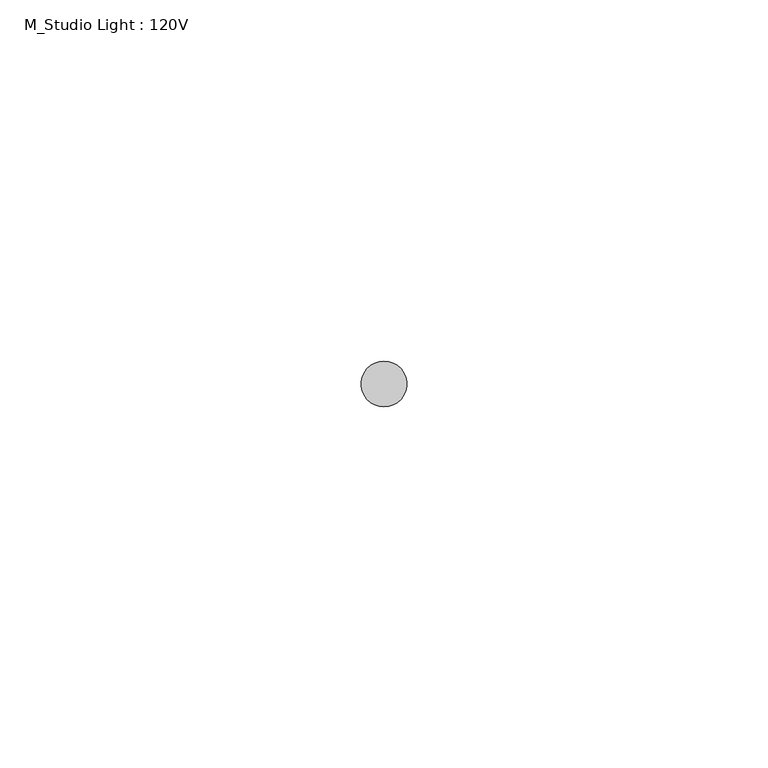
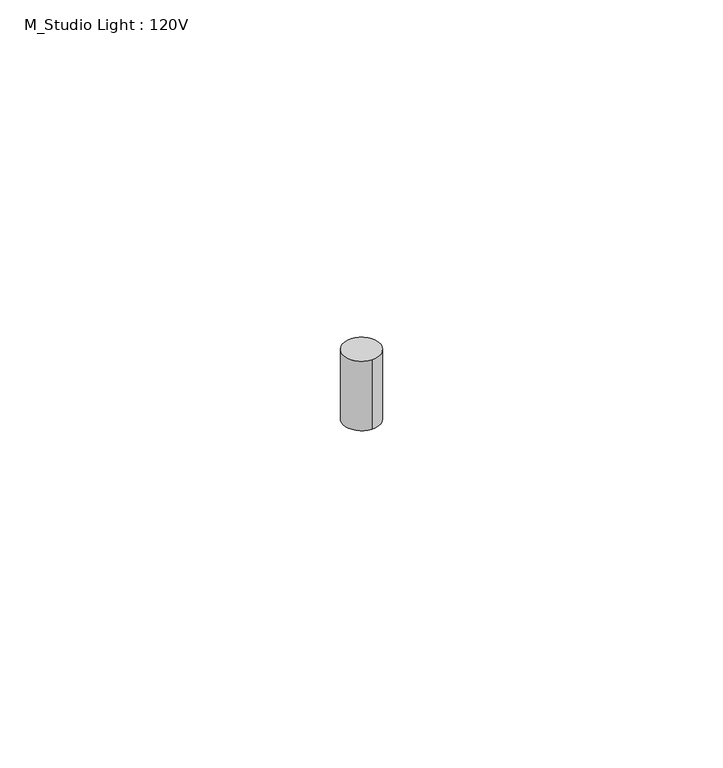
"""IFC4 building model written with IfcOpenShell, lengths in millimetres: light fixture geometry, M_Studio Light : 120V."""

from ifc_helpers import new_model, si_unit, point, frame, origin, origin_2d, place, context, project, spatial, circle_curve, trimmed, segment, composite_curve, outline, extrude, source, transform, mapped, element, save


def m_studio_light_120v_2dcb9a91(model_context):
    return source(origin(), model_context, "Body", "SweptSolid", [
        extrude(outline(composite_curve([segment(trimmed(circle_curve(origin_2d(), 3.175), [point((0.0, 3.175))], [point((0.0, -3.175))], False, "CARTESIAN"), True, "CONTINUOUS"), segment(trimmed(circle_curve(origin_2d(), 3.175), [point((0.0, -3.175))], [point((0.0, 3.175))], False, "CARTESIAN"), True, "CONTINUOUS")], self_intersect=False)), frame((0.0, 0.0, 2400.0), z_axis=(0.0, 0.0, 1.0), x_axis=(1.0, 0.0, 0.0)), (0.0, 0.0, 1.0), 12.7),
    ])


if __name__ == "__main__":
    model = new_model("IFC4")
    model_context = context("Model", 3, world=origin())
    ifc_project = project(units=[si_unit("LENGTHUNIT", "METRE", prefix="MILLI")], contexts=[model_context])
    site = spatial("IfcSite", under=ifc_project)
    building = spatial("IfcBuilding", under=site)
    placement = place(None, origin())
    m_studio_light_120v_shape = m_studio_light_120v_2dcb9a91(model_context)
    element("IfcLightFixture", 1, ObjectType="M_Studio Light : 120V", at=placement, inside=building, context=model_context, shape_type="MappedRepresentation", body=[
        mapped(m_studio_light_120v_shape, transform((0.0, 0.0, 0.0), x_axis=(1.0, 0.0, 0.0), y_axis=(0.0, 1.0, 0.0), z_axis=(0.0, 0.0, 1.0))),
    ])
    save(model, "model.ifc")
